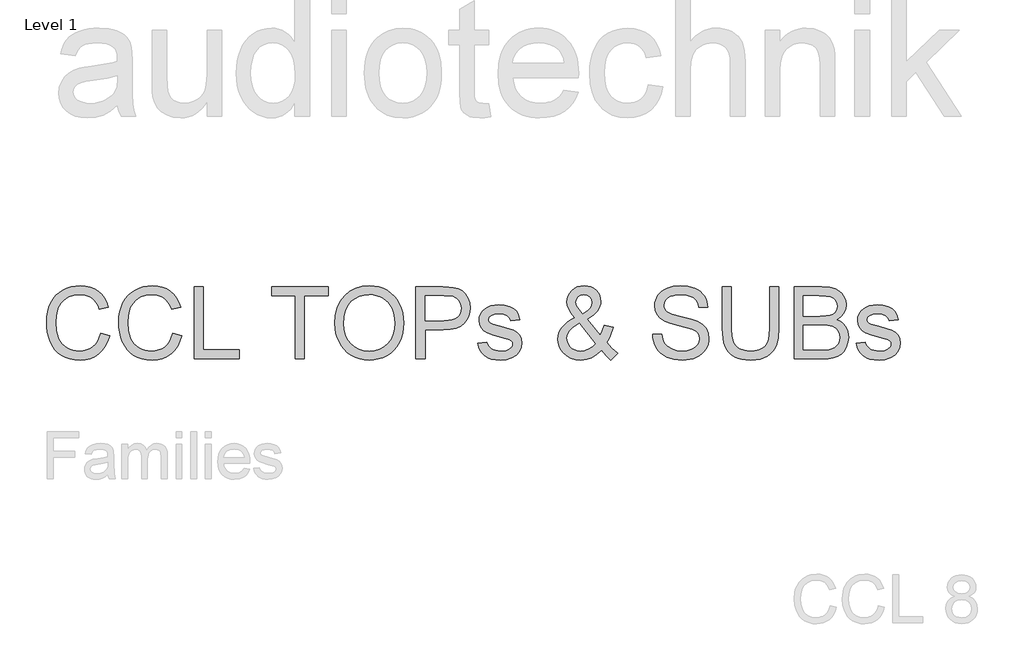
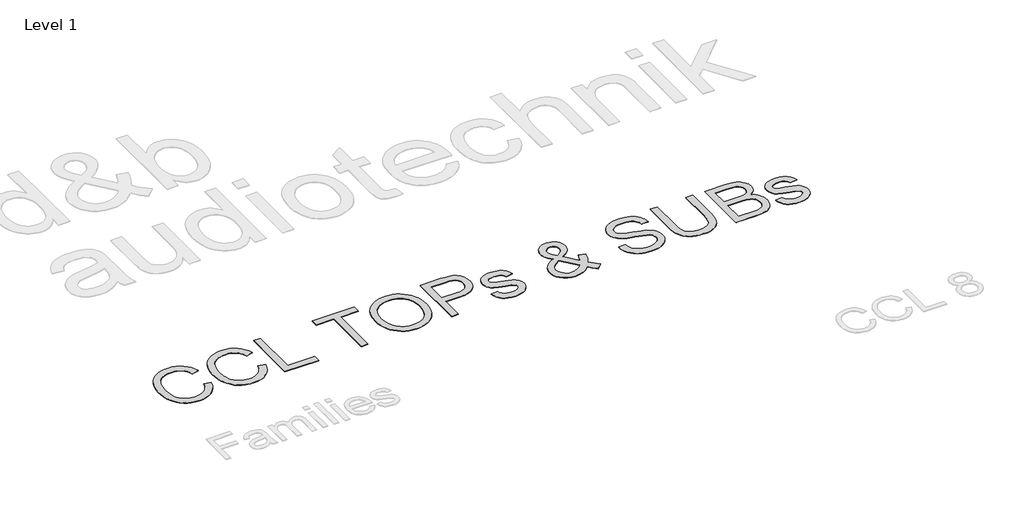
# One storey, part 23 of 31: 1 proxy.
"""IFC4 building model written with IfcOpenShell, lengths in millimetres."""

import ifcopenshell
import ifcopenshell.guid

model = None  # the IFC model being written
_history = None  # IfcOwnerHistory: only IFC2X3 demands one
_inside = {}  # id of a spatial element -> (the spatial element, [elements in it])
_under = {}  # id of a project, library or spatial element -> (it, [spatial elements below it])
_declared = {}  # id of a project -> (the project, [libraries it declares])
_typed = {}  # id of a type object -> (the type object, [elements of that type])
_made_of = {}  # id of a material, layer set ... -> (it, [elements and type objects made of it])


def new_model(schema):
    """Start an empty IFC model of exactly this schema.

    Asked for "IFC4X3", IfcOpenShell would pick the latest addendum, in which some entities
    have other attributes; the version numbers below select the first issue.
    IFC2X3 requires an IfcOwnerHistory on every rooted entity: one is made here for all.
    """
    global model, _history
    if schema == "IFC4X3":
        model = ifcopenshell.file(schema_version=(4, 3, 0, 0))
    else:
        model = ifcopenshell.file(schema=schema)
    _inside.clear()
    _under.clear()
    _declared.clear()
    _typed.clear()
    _made_of.clear()
    _history = None
    if model.schema == "IFC2X3":
        org = make("IfcOrganization", Name="unknown")
        user = make(
            "IfcPersonAndOrganization",
            ThePerson=make("IfcPerson", FamilyName="unknown"),
            TheOrganization=org,
        )
        app = make(
            "IfcApplication",
            ApplicationDeveloper=org,
            Version="unknown",
            ApplicationFullName="unknown",
            ApplicationIdentifier="unknown",
        )
        _history = make(
            "IfcOwnerHistory",
            OwningUser=user,
            OwningApplication=app,
            ChangeAction="ADDED",
            CreationDate=0,
        )
    return model


def make(cls, **values):
    """One entity of the class cls with the attributes given. An attribute that is None is left unset."""
    return model.create_entity(
        cls, **{name: value for name, value in values.items() if value is not None}
    )


def rooted(cls, **values):
    """An entity with a GlobalId (a new one), such as an element, a storey or a relation."""
    return make(cls, GlobalId=ifcopenshell.guid.new(), OwnerHistory=_history, **values)


def si_unit(unit_type, name, prefix=None):
    """IfcSIUnit, for example si_unit("LENGTHUNIT", "METRE", prefix="MILLI")."""
    return make("IfcSIUnit", UnitType=unit_type, Prefix=prefix, Name=name)


def assignment(units):
    """IfcUnitAssignment: the units of a project."""
    return None if units is None else make("IfcUnitAssignment", Units=units)


def point(xyz):
    """IfcCartesianPoint."""
    return None if xyz is None else make("IfcCartesianPoint", Coordinates=xyz)


def direction(xyz):
    """IfcDirection."""
    return None if xyz is None else make("IfcDirection", DirectionRatios=xyz)


def frame(location, z_axis=None, x_axis=None):
    """IfcAxis2Placement3D, a coordinate frame: its origin and axes. An axis left out is left unset."""
    return make(
        "IfcAxis2Placement3D",
        Location=point(location),
        Axis=direction(z_axis),
        RefDirection=direction(x_axis),
    )


def origin():
    """The frame at (0, 0, 0) with its axes left unset."""
    return frame((0.0, 0.0, 0.0))


def origin_with_axes():
    """The frame at (0, 0, 0) with the z axis (0, 0, 1) and the x axis (1, 0, 0) written out."""
    return frame((0.0, 0.0, 0.0), z_axis=(0.0, 0.0, 1.0), x_axis=(1.0, 0.0, 0.0))


def place(relative_to, where):
    """IfcLocalPlacement: puts the frame where relative to a parent placement (None: the world)."""
    return make(
        "IfcLocalPlacement", PlacementRelTo=relative_to, RelativePlacement=where
    )


def context(
    kind, dimensions, precision=None, world=None, true_north=None, identifier=None
):
    """IfcGeometricRepresentationContext, for example the 3D "Model" context."""
    return make(
        "IfcGeometricRepresentationContext",
        ContextIdentifier=identifier,
        ContextType=kind,
        CoordinateSpaceDimension=dimensions,
        Precision=precision,
        WorldCoordinateSystem=world,
        TrueNorth=true_north,
    )


def project(units=None, contexts=None):
    """IfcProject with its units and contexts."""
    return rooted(
        "IfcProject",
        Name="project",
        RepresentationContexts=contexts,
        UnitsInContext=assignment(units),
    )


def spatial(cls, under=None, at=None, **own):
    """A site, building, storey or space (cls), placed at a placement, below another one or the project."""
    s = rooted(cls, ObjectPlacement=at, **own)
    if under is not None:
        _under.setdefault(under.id(), (under, []))[1].append(s)
    return s


def polyline(points):
    """IfcPolyline through the points."""
    return make("IfcPolyline", Points=[point(p) for p in points])


def outline(outer, holes=None, kind="AREA"):
    """IfcArbitraryClosedProfileDef: a profile drawn as a closed curve; with holes, ...WithVoids."""
    if holes is None:
        return make("IfcArbitraryClosedProfileDef", ProfileType=kind, OuterCurve=outer)
    return make(
        "IfcArbitraryProfileDefWithVoids",
        ProfileType=kind,
        OuterCurve=outer,
        InnerCurves=holes,
    )


def extrude(swept, where, along, depth):
    """IfcExtrudedAreaSolid: the profile swept, set in the frame where, extruded along a direction by depth."""
    return make(
        "IfcExtrudedAreaSolid",
        SweptArea=swept,
        Position=where,
        ExtrudedDirection=direction(along),
        Depth=depth,
    )


def shape(context_of_items, identifier, shape_type, items):
    """IfcShapeRepresentation: the items that make up one representation, for example the "Body"."""
    return make(
        "IfcShapeRepresentation",
        ContextOfItems=context_of_items,
        RepresentationIdentifier=identifier,
        RepresentationType=shape_type,
        Items=items,
    )


def made_of(thing, what):
    """Note that an element or type object is made of a material, layer set ...; save() writes the relation."""
    if what is not None:
        _made_of.setdefault(what.id(), (what, []))[1].append(thing)
    return thing


def element(
    cls,
    number,
    at=None,
    inside=None,
    cuts=None,
    type_object=None,
    material=None,
    context=None,
    identifier="Body",
    shape_type=None,
    held_by="IfcProductDefinitionShape",
    body=None,
    shapes=None,
    **own,
):
    """One element of the class cls, such as IfcWall. Its Tag is "e" and its number.

    at: its placement. inside: the storey or other place that contains it. cuts: it is an
    opening in that element (IfcRelVoidsElement). A single representation is given by context,
    identifier, shape_type and body (its items); several are given by shapes. held_by: the class
    of the entity that holds the representations. save() writes the other relations.
    """
    e = rooted(cls, Tag="e%d" % number, ObjectPlacement=at, **own)
    if body is not None:
        shapes = [shape(context, identifier, shape_type, body)]
    if shapes is not None:
        e.Representation = make(held_by, Representations=shapes)
    if inside is not None:
        _inside.setdefault(inside.id(), (inside, []))[1].append(e)
    if cuts is not None:
        rooted(
            "IfcRelVoidsElement", RelatingBuildingElement=cuts, RelatedOpeningElement=e
        )
    if type_object is not None:
        _typed.setdefault(type_object.id(), (type_object, []))[1].append(e)
    return made_of(e, material)


def aggregate(whole, parts):
    """IfcRelAggregates: a whole, such as a stair, and the parts it consists of."""
    return rooted("IfcRelAggregates", RelatingObject=whole, RelatedObjects=parts)


def save(model, path):
    """Write the relations noted so far, then the file.

    IfcRelAggregates (storeys below a building ...), IfcRelContainedInSpatialStructure (elements
    in a storey), IfcRelDefinesByType, IfcRelAssociatesMaterial and IfcRelDeclares: one each for
    every whole, place, type object, material and project.
    """
    for whole, parts in _under.values():
        aggregate(whole, parts)
    for where, things in _inside.values():
        rooted(
            "IfcRelContainedInSpatialStructure",
            RelatedElements=things,
            RelatingStructure=where,
        )
    for kind, things in _typed.values():
        rooted("IfcRelDefinesByType", RelatedObjects=things, RelatingType=kind)
    for what, things in _made_of.values():
        rooted("IfcRelAssociatesMaterial", RelatedObjects=things, RelatingMaterial=what)
    for by, libraries in _declared.values():
        rooted("IfcRelDeclares", RelatingContext=by, RelatedDefinitions=libraries)
    model.write(path)


model = new_model("IFC4")

# Units and contexts
model_context = context("Model", 3, world=origin())
ifc_project = project(units=[si_unit("LENGTHUNIT", "METRE", prefix="MILLI")], contexts=[model_context])

# Site, building, storey
site = spatial("IfcSite", under=ifc_project)
building = spatial("IfcBuilding", under=site)
storey = spatial("IfcBuildingStorey", under=building, Name="Level 1", Elevation=0.0)

# Proxy
placement = place(None, origin())
element("IfcBuildingElementProxy", 1, Name="600mm Arial", ObjectType="600mm Arial", at=placement, inside=storey, context=model_context, shape_type="SweptSolid", body=[
    extrude(outline(polyline([(-20609.8448639, 18565.5599576), (-20534.5026313, 18546.1357882), (-20549.4110491, 18499.2814176), (-20569.2674798, 18458.3407501), (-20594.0719234, 18423.3137856), (-20623.8243797, 18394.2005242), (-20657.8534643, 18371.3136656), (-20695.4877924, 18354.9659094), (-20736.727364, 18345.1572557), (-20781.5721793, 18341.8877045), (-20827.5160419, 18344.3617109), (-20868.9625472, 18351.7837302), (-20905.9116951, 18364.1537623), (-20938.3634856, 18381.4718072), (-20966.7639756, 18403.4803475), (-20991.5592221, 18429.9218659), (-21012.749225, 18460.7963624), (-21030.3339844, 18496.1038369), (-21044.1433548, 18534.3175791), (-21054.0071908, 18573.9108789), (-21059.9254924, 18614.8837361), (-21061.8982596, 18657.2361508), (-21059.667975, 18702.6787742), (-21052.9771212, 18745.1231594), (-21041.8256982, 18784.5693063), (-21026.213706, 18821.017215), (-21006.4906326, 18853.8644787), (-20983.0059657, 18882.5086905), (-20955.7597054, 18906.9498506), (-20924.7518518, 18927.1879588), (-20891.0354669, 18943.0574684), (-20855.6636131, 18954.3928324), (-20818.6362903, 18961.1940508), (-20779.9534985, 18963.4611235), (-20736.8607213, 18960.5272646), (-20697.3455965, 18951.7256879), (-20661.4081241, 18937.0563933), (-20629.0483041, 18916.519381), (-20600.7995653, 18890.6572767), (-20577.1953368, 18860.0127065), (-20558.2356185, 18824.5856704), (-20543.9204104, 18784.3761683), (-20619.262643, 18766.4235269), (-20631.1268373, 18796.0518231), (-20645.3822646, 18821.3667029), (-20662.0289249, 18842.3681663), (-20681.0668182, 18859.0562133), (-20702.606309, 18871.7711348), (-20726.757762, 18880.8532215), (-20753.5211771, 18886.3024736), (-20782.8965544, 18888.1188909), (-20816.6957127, 18886.104737), (-20847.6069974, 18880.0622752), (-20875.6304084, 18869.9915056), (-20900.7659457, 18855.8924282), (-20922.6963111, 18838.3996393), (-20941.1042065, 18818.1477355), (-20955.9896317, 18795.1367167), (-20967.3525868, 18769.3665829), (-20981.7551669, 18714.2210718), (-20986.556027, 18657.3833036), (-20980.8722501, 18587.7800301), (-20973.7675291, 18556.5100605), (-20963.8209197, 18527.5945357), (-20950.8714734, 18501.6082712), (-20934.758242, 18479.1260828), (-20915.4812255, 18460.1479704), (-20893.0404238, 18444.6739339), (-20868.5256873, 18432.6671853), (-20843.0268665, 18424.0909363), (-20816.5439614, 18418.9451869), (-20789.076972, 18417.2299371), (-20756.3216788, 18419.5659878), (-20726.1875449, 18426.5741398), (-20698.6745702, 18438.2543931), (-20673.7827547, 18454.6067478), (-20652.1007096, 18475.5576274), (-20634.2170461, 18501.0334556), (-20620.1317642, 18531.0342323), (-20609.8448639, 18565.5599576)])), origin_with_axes(), (0.0, 0.0, 1.0), 5.0),
    extrude(outline(polyline([(-20007.107003, 18565.5599576), (-19931.7647704, 18546.1357882), (-19946.6731882, 18499.2814176), (-19966.5296189, 18458.3407501), (-19991.3340625, 18423.3137856), (-20021.0865188, 18394.2005242), (-20055.1156034, 18371.3136656), (-20092.7499315, 18354.9659094), (-20133.9895031, 18345.1572557), (-20178.8343184, 18341.8877045), (-20224.778181, 18344.3617109), (-20266.2246863, 18351.7837302), (-20303.1738342, 18364.1537623), (-20335.6256247, 18381.4718072), (-20364.0261147, 18403.4803475), (-20388.8213612, 18429.9218659), (-20410.0113641, 18460.7963624), (-20427.5961235, 18496.1038369), (-20441.4054939, 18534.3175791), (-20451.2693299, 18573.9108789), (-20457.1876315, 18614.8837361), (-20459.1603987, 18657.2361508), (-20456.9301141, 18702.6787742), (-20450.2392603, 18745.1231594), (-20439.0878373, 18784.5693063), (-20423.4758451, 18821.017215), (-20403.7527717, 18853.8644787), (-20380.2681048, 18882.5086905), (-20353.0218445, 18906.9498506), (-20322.0139909, 18927.1879588), (-20288.297606, 18943.0574684), (-20252.9257522, 18954.3928324), (-20215.8984294, 18961.1940508), (-20177.2156376, 18963.4611235), (-20134.1228604, 18960.5272646), (-20094.6077356, 18951.7256879), (-20058.6702632, 18937.0563933), (-20026.3104432, 18916.519381), (-19998.0617044, 18890.6572767), (-19974.4574759, 18860.0127065), (-19955.4977576, 18824.5856704), (-19941.1825495, 18784.3761683), (-20016.5247821, 18766.4235269), (-20028.3889764, 18796.0518231), (-20042.6444037, 18821.3667029), (-20059.291064, 18842.3681663), (-20078.3289573, 18859.0562133), (-20099.8684481, 18871.7711348), (-20124.0199011, 18880.8532215), (-20150.7833162, 18886.3024736), (-20180.1586935, 18888.1188909), (-20213.9578518, 18886.104737), (-20244.8691365, 18880.0622752), (-20272.8925475, 18869.9915056), (-20298.0280848, 18855.8924282), (-20319.9584502, 18838.3996393), (-20338.3663456, 18818.1477355), (-20353.2517708, 18795.1367167), (-20364.6147259, 18769.3665829), (-20379.017306, 18714.2210718), (-20383.8181661, 18657.3833036), (-20378.1343892, 18587.7800301), (-20371.0296682, 18556.5100605), (-20361.0830588, 18527.5945357), (-20348.1336125, 18501.6082712), (-20332.0203811, 18479.1260828), (-20312.7433646, 18460.1479704), (-20290.3025629, 18444.6739339), (-20265.7878264, 18432.6671853), (-20240.2890056, 18424.0909363), (-20213.8061005, 18418.9451869), (-20186.3391111, 18417.2299371), (-20153.5838179, 18419.5659878), (-20123.449684, 18426.5741398), (-20095.9367093, 18438.2543931), (-20071.0448938, 18454.6067478), (-20049.3628487, 18475.5576274), (-20031.4791852, 18501.0334556), (-20017.3939033, 18531.0342323), (-20007.107003, 18565.5599576)])), origin_with_axes(), (0.0, 0.0, 1.0), 5.0),
    extrude(outline(polyline([(-19828.1692006, 18351.3054836), (-19828.1692006, 18954.0433445), (-19752.8269679, 18954.0433445), (-19752.8269679, 18426.6477162), (-19451.4580375, 18426.6477162), (-19451.4580375, 18351.3054836), (-19828.1692006, 18351.3054836)])), origin_with_axes(), (0.0, 0.0, 1.0), 5.0),
    extrude(outline(polyline([(-18980.5690837, 18351.3054836), (-18980.5690837, 18878.7011119), (-19178.3424443, 18878.7011119), (-19178.3424443, 18954.0433445), (-18707.4534904, 18954.0433445), (-18707.4534904, 18878.7011119), (-18905.2268511, 18878.7011119), (-18905.2268511, 18351.3054836), (-18980.5690837, 18351.3054836)])), origin_with_axes(), (0.0, 0.0, 1.0), 5.0),
    extrude(outline(polyline([(-18650.946816, 18644.7281629), (-18645.9252268, 18715.4258853), (-18630.860459, 18778.0118098), (-18605.7525129, 18832.4859362), (-18589.4323479, 18856.6810752), (-18570.6013882, 18878.8482647), (-18527.5132096, 18915.8663904), (-18478.5941012, 18942.3079088), (-18423.8440633, 18958.1728199), (-18363.2630958, 18963.4611235), (-18322.7133028, 18960.9779201), (-18284.205255, 18953.5283097), (-18247.7389522, 18941.1122923), (-18213.3143945, 18923.7298681), (-18181.8972721, 18901.9052687), (-18154.4532753, 18876.1627261), (-18130.982404, 18846.5022402), (-18111.4846583, 18812.9238111), (-18096.1623732, 18776.1907939), (-18085.2178838, 18737.0665437), (-18078.6511902, 18695.5510606), (-18076.4622923, 18651.6443444), (-18078.7661533, 18607.1582142), (-18085.6777363, 18565.081711), (-18097.1970413, 18525.4148348), (-18113.3240682, 18488.1575858), (-18133.6771396, 18454.2940481), (-18157.8745778, 18424.8083062), (-18185.9163829, 18399.70036), (-18217.8025549, 18378.9702096), (-18252.2776963, 18362.7466136), (-18288.08641, 18351.1583308), (-18325.228696, 18344.2053611), (-18363.7045542, 18341.8877045), (-18404.9625199, 18344.4490829), (-18443.9764055, 18352.1332181), (-18480.7462109, 18364.94011), (-18515.2719362, 18382.8697588), (-18546.6522704, 18405.227787), (-18573.9859026, 18431.3198175), (-18597.2728329, 18461.1458503), (-18616.5130612, 18494.7058853), (-18631.5778289, 18530.6525547), (-18642.3383773, 18567.6384908), (-18648.7947063, 18605.6636936), (-18650.946816, 18644.7281629)]), holes=[polyline([(-18575.6045834, 18643.9923989), (-18571.8383914, 18594.043221), (-18560.5398157, 18549.7042436), (-18541.708856, 18510.9754665), (-18515.3455126, 18477.8568899), (-18483.2983923, 18451.3325981), (-18447.4161022, 18432.3866753), (-18407.6986422, 18421.0191217), (-18364.1460125, 18417.2299371), (-18319.8484218, 18421.0559099), (-18279.6619124, 18432.5338281), (-18243.5864842, 18451.6636919), (-18211.6221373, 18478.4455011), (-18185.4519319, 18512.2630535), (-18166.758928, 18552.5001467), (-18155.5431257, 18599.1567808), (-18151.8045249, 18652.2329556), (-18153.4048116, 18686.7126956), (-18158.2056716, 18718.9299614), (-18166.207105, 18748.8847528), (-18177.4091118, 18776.57707), (-18191.6875317, 18801.6436294), (-18208.9182047, 18823.7211477), (-18229.1011306, 18842.8096247), (-18252.2363096, 18858.9090605), (-18277.6063717, 18871.6883613), (-18304.493947, 18880.8164333), (-18332.8990356, 18886.2932765), (-18362.8216374, 18888.1188909), (-18404.8613524, 18884.6010194), (-18443.8660409, 18874.0474046), (-18479.835703, 18856.4580467), (-18512.7703386, 18831.8329457), (-18540.2603207, 18798.985682), (-18559.8960222, 18756.7298364), (-18571.6774431, 18705.0654087), (-18575.6045834, 18643.9923989)])]), origin_with_axes(), (0.0, 0.0, 1.0), 5.0),
    extrude(outline(polyline([(-17972.8667225, 18351.3054836), (-17972.8667225, 18954.0433445), (-17749.488775, 18954.0433445), (-17697.4702609, 18952.6086047), (-17659.4312626, 18948.3043853), (-17619.2769428, 18937.5806252), (-17586.2227455, 18920.1246245), (-17559.6064832, 18895.145437), (-17538.7659682, 18861.8521165), (-17525.3014871, 18822.5807135), (-17520.8133268, 18779.6672788), (-17523.8437547, 18742.6675471), (-17532.9350385, 18708.6292655), (-17548.0871782, 18677.5524339), (-17569.3001738, 18649.4370525), (-17598.4226322, 18626.1317281), (-17637.3031606, 18609.4850678), (-17685.9417589, 18599.4970716), (-17744.3384271, 18596.1677396), (-17897.5244899, 18596.1677396), (-17897.5244899, 18351.3054836), (-17972.8667225, 18351.3054836)]), holes=[polyline([(-17897.5244899, 18671.5099722), (-17739.9238431, 18671.5099722), (-17703.6874666, 18673.2390176), (-17673.1164728, 18678.4261537), (-17648.2108617, 18687.0713806), (-17628.9706334, 18699.1746982), (-17614.6140385, 18714.4142099), (-17604.3593279, 18732.4680188), (-17598.2065015, 18753.336125), (-17596.1555594, 18777.0185284), (-17600.9932077, 18810.8636719), (-17615.5061524, 18839.4113148), (-17637.8917718, 18860.8956233), (-17666.3474441, 18873.5507639), (-17695.4101217, 18877.4135249), (-17741.6896767, 18878.7011119), (-17897.5244899, 18878.7011119), (-17897.5244899, 18671.5099722)])]), origin_with_axes(), (0.0, 0.0, 1.0), 5.0),
    extrude(outline(polyline([(-17454.8888733, 18483.1543906), (-17379.5466407, 18492.5721697), (-17374.994101, 18475.3920805), (-17367.6640522, 18460.3457069), (-17357.5564944, 18447.4330489), (-17344.6714275, 18436.6541065), (-17328.9720634, 18428.1560324), (-17310.4216138, 18422.0859794), (-17264.7674582, 18417.2299371), (-17219.6651255, 18421.6813092), (-17202.1355485, 18427.2455244), (-17187.9536976, 18435.0354257), (-17169.1917158, 18454.3860186), (-17164.5012204, 18465.2201434), (-17162.9377219, 18476.8268203), (-17164.5104174, 18486.9987575), (-17169.228504, 18496.0302605), (-17188.1008504, 18510.6719639), (-17216.3173994, 18520.2368958), (-17265.6503749, 18532.1562724), (-17334.4075198, 18552.0402942), (-17379.1051823, 18569.0180483), (-17407.818372, 18587.5409068), (-17428.6220988, 18612.0602418), (-17441.2588453, 18641.0125548), (-17445.4710942, 18672.8343474), (-17442.0865798, 18702.0257837), (-17431.9330368, 18728.9731398), (-17415.93017, 18752.609558), (-17394.9976845, 18771.8681805), (-17374.1939576, 18783.9898922), (-17347.0994487, 18794.1618294), (-17315.7742968, 18801.0596168), (-17282.2786411, 18803.3588792), (-17233.2399712, 18799.6616652), (-17190.6024479, 18788.570023), (-17156.315846, 18771.1692047), (-17132.3299399, 18748.544462), (-17116.4374377, 18719.0219319), (-17106.4310474, 18680.9277513), (-17181.77328, 18671.5099722), (-17191.2830296, 18695.2199668), (-17210.1001937, 18713.0806376), (-17238.4087132, 18724.2826444), (-17276.3925292, 18728.0166466), (-17319.6554518, 18724.4481913), (-17348.4974003, 18713.7428252), (-17364.7209962, 18698.2917814), (-17370.1288616, 18680.4862929), (-17367.8847814, 18668.89801), (-17361.1525409, 18658.5605259), (-17349.6378344, 18649.3266879), (-17333.0463565, 18641.9322598), (-17268.1519725, 18625.8926048), (-17157.5666448, 18590.4287804), (-17128.3568143, 18573.4694205), (-17106.2103182, 18550.2560666), (-17092.2491965, 18520.7151424), (-17087.5954893, 18484.7730714), (-17093.0585369, 18447.6169899), (-17109.4476798, 18412.6682004), (-17136.1375185, 18382.6674237), (-17172.5026538, 18360.3553807), (-17216.427764, 18346.5046235), (-17265.7975277, 18341.8877045), (-17306.3473207, 18344.1133906), (-17341.7651597, 18350.7904488), (-17372.051045, 18361.9188791), (-17397.2049764, 18377.4986816), (-17417.7511859, 18397.4562799), (-17434.2139051, 18421.7180974), (-17446.5931343, 18450.2841344), (-17454.8888733, 18483.1543906)])), origin_with_axes(), (0.0, 0.0, 1.0), 5.0),
    extrude(outline(polyline([(-16421.729078, 18425.7647994), (-16460.0255937, 18389.0685704), (-16501.6330474, 18362.8569782), (-16546.6250154, 18347.1300229), (-16595.0750741, 18341.8877045), (-16639.0369726, 18345.7688595), (-16678.216405, 18357.4123247), (-16712.6133716, 18376.8180999), (-16742.2278722, 18403.9861853), (-16761.4772976, 18430.0414276), (-16775.2268872, 18457.586592), (-16783.4766409, 18486.6216784), (-16786.2265588, 18517.146687), (-16784.0146683, 18544.2136048), (-16777.3789968, 18569.9377533), (-16766.3195444, 18594.3191325), (-16750.8363109, 18617.3577425), (-16730.9568876, 18639.0443861), (-16706.7088656, 18659.3698663), (-16678.0922449, 18678.3341832), (-16645.1070255, 18695.9373367), (-16677.9772818, 18738.4644953), (-16697.7141508, 18772.1624861), (-16707.5917824, 18800.9308581), (-16710.8843262, 18828.6691605), (-16708.2907582, 18855.0003143), (-16700.510054, 18879.5472404), (-16687.5422136, 18902.3099389), (-16669.3872372, 18923.2884097), (-16647.3051204, 18940.863972), (-16622.5558592, 18953.4179451), (-16595.1394535, 18960.9503289), (-16565.0559033, 18963.4611235), (-16536.3335166, 18961.0606935), (-16510.3518506, 18953.8594035), (-16487.1109056, 18941.8572534), (-16466.6106814, 18925.0542433), (-16449.8720506, 18904.8851129), (-16437.9158858, 18882.784602), (-16430.7421869, 18858.7527107), (-16428.3509539, 18832.7894389), (-16430.121386, 18811.4062979), (-16435.4326823, 18790.8141032), (-16444.2848428, 18771.0128548), (-16456.6778676, 18752.0025527), (-16492.0865096, 18716.3547874), (-16541.6586084, 18683.8708072), (-16432.6183851, 18548.0487746), (-16414.0403443, 18586.8603251), (-16400.0976167, 18631.4844111), (-16324.7553841, 18615.1504505), (-16347.9319498, 18545.363236), (-16362.1138007, 18516.2913614), (-16378.024697, 18491.1006417), (-16335.2032327, 18441.1422668), (-16287.0842678, 18399.8659069), (-16343.5909422, 18341.8877045), (-16382.0346107, 18377.0572232), (-16421.729078, 18425.7647994)]), holes=[polyline([(-16579.7711831, 18731.401161), (-16540.3710215, 18756.3987426), (-16517.8198552, 18778.1221744), (-16507.2248537, 18799.256995), (-16503.6931865, 18822.488743), (-16508.3468938, 18848.8106997), (-16522.3080155, 18869.7983676), (-16543.2588951, 18883.5387601), (-16568.8818761, 18888.1188909), (-16595.05668, 18883.5755483), (-16616.4858063, 18869.9455204), (-16630.7780218, 18849.7671929), (-16635.5420936, 18825.5789518), (-16629.0673705, 18797.9878021), (-16609.4960483, 18767.3064437), (-16579.7711831, 18731.401161)]), polyline([(-16472.2024877, 18480.0641819), (-16606.7001452, 18647.9655245), (-16658.0748658, 18615.1872387), (-16689.4735941, 18584.8369741), (-16705.5316432, 18555.8478729), (-16710.8843262, 18527.1530773), (-16709.0541133, 18509.5499238), (-16703.5634745, 18491.6156765), (-16681.6009194, 18454.7539006), (-16665.4325057, 18438.3371666), (-16646.2106715, 18426.610928), (-16623.9354167, 18419.5751848), (-16598.6067413, 18417.2299371), (-16564.5224744, 18421.6077329), (-16529.3713498, 18434.7411201), (-16497.2368575, 18454.827477), (-16472.2024877, 18480.0641819)])]), origin_with_axes(), (0.0, 0.0, 1.0), 5.0),
    extrude(outline(polyline([(-15995.1331164, 18558.4966233), (-15919.7908838, 18558.4966233), (-15911.1456569, 18516.6868345), (-15895.5106721, 18483.0808142), (-15871.1200958, 18456.4093696), (-15836.2080945, 18435.4033077), (-15793.533783, 18421.7732797), (-15745.8562765, 18417.2299371), (-15703.8809408, 18420.6696338), (-15667.1295295, 18430.9887237), (-15637.349482, 18447.3226843), (-15616.2882378, 18468.8069928), (-15603.7618558, 18493.4734806), (-15599.5863952, 18519.353979), (-15602.7133921, 18544.5722897), (-15612.094383, 18566.369298), (-15631.1506704, 18584.9657328), (-15663.3035568, 18600.5823235), (-15773.0059677, 18629.3506955), (-15845.0188683, 18648.3885888), (-15891.0960882, 18666.506777), (-15928.6016576, 18691.8538465), (-15955.1811317, 18722.5719931), (-15971.0184516, 18757.9990292), (-15976.2975583, 18797.4727673), (-15974.6650819, 18819.9089705), (-15969.7676528, 18841.6002126), (-15961.6052711, 18862.5464937), (-15950.1779366, 18882.7478138), (-15935.6144081, 18901.3810369), (-15918.0434443, 18917.6230269), (-15897.4650452, 18931.4737841), (-15873.8792108, 18942.9333082), (-15820.8674153, 18958.3291697), (-15762.1902371, 18963.4611235), (-15698.6202283, 18958.0900464), (-15642.9964706, 18941.976815), (-15618.6610766, 18929.9746649), (-15597.3055268, 18915.4525232), (-15578.9298212, 18898.4103897), (-15563.5339597, 18878.8482647), (-15551.237504, 18857.336365), (-15542.1600157, 18834.4449078), (-15536.301495, 18810.1738932), (-15533.6619417, 18784.5233211), (-15609.0041743, 18784.5233211), (-15614.0441576, 18808.5644095), (-15622.8365373, 18829.4785009), (-15635.3813133, 18847.2655954), (-15651.6784857, 18861.9256929), (-15672.0315571, 18873.385217), (-15696.7440301, 18881.5705914), (-15725.8159048, 18886.4818161), (-15759.2471811, 18888.1188909), (-15793.7453152, 18886.5002102), (-15823.2218601, 18881.6441678), (-15847.6768157, 18873.5507639), (-15867.1101821, 18862.2199985), (-15881.9174324, 18848.5991676), (-15892.4940397, 18833.6355674), (-15898.8400042, 18817.329198), (-15900.9553256, 18799.6800593), (-15899.4562065, 18784.4957299), (-15894.9588491, 18770.7277463), (-15887.4632535, 18758.3761083), (-15876.9694196, 18747.440816), (-15860.451518, 18737.0849378), (-15834.4422609, 18726.6186951), (-15753.9496804, 18705.3551157), (-15670.8819259, 18685.1583942), (-15620.6292453, 18667.5368466), (-15577.6790224, 18640.2032144), (-15561.0737488, 18624.1359682), (-15547.7150339, 18606.4684354), (-15537.4465277, 18587.2925864), (-15530.1118804, 18566.7003917), (-15524.2441626, 18521.2669653), (-15525.9318212, 18497.699525), (-15530.9947972, 18474.8218635), (-15539.4330905, 18452.6339806), (-15551.246701, 18431.1358765), (-15566.2286953, 18411.1598842), (-15584.1721396, 18393.5383366), (-15605.077034, 18378.2712338), (-15628.9433784, 18365.3585758), (-15655.0767956, 18355.0900696), (-15682.7829084, 18347.7554223), (-15742.9132205, 18341.8877045), (-15781.453458, 18343.4695971), (-15816.7287428, 18348.2152748), (-15848.7390749, 18356.1247377), (-15877.4844543, 18367.1979858), (-15903.139625, 18381.4534131), (-15925.8793308, 18398.9094137), (-15945.7035718, 18419.5659878), (-15962.612348, 18443.4231352), (-15976.2331789, 18469.7083037), (-15986.1935839, 18497.6489413), (-15992.4935631, 18527.2450478), (-15995.1331164, 18558.4966233)])), origin_with_axes(), (0.0, 0.0, 1.0), 5.0),
    extrude(outline(polyline([(-15015.6840924, 18954.0433445), (-14940.3418598, 18954.0433445), (-14940.3418598, 18606.3212826), (-14945.4554196, 18524.890603), (-14951.8473692, 18491.1972108), (-14960.7960988, 18462.1851169), (-14973.0741604, 18436.755274), (-14989.4541062, 18413.8086346), (-15009.9359363, 18393.3451986), (-15034.5196506, 18375.3649661), (-15063.2328403, 18360.7186641), (-15096.1030966, 18350.2570199), (-15133.1304194, 18343.9800333), (-15174.3148088, 18341.8877045), (-15214.4829241, 18343.7087204), (-15250.8158697, 18349.171768), (-15283.3136454, 18358.2768474), (-15311.9762514, 18371.0239585), (-15336.808286, 18387.2245619), (-15357.814348, 18406.6901179), (-15374.9944371, 18429.4206267), (-15388.3485536, 18455.4160882), (-15398.3595424, 18485.5686162), (-15405.5102486, 18520.7703247), (-15409.8006724, 18561.0212134), (-15411.2308137, 18606.3212826), (-15411.2308137, 18954.0433445), (-15335.888581, 18954.0433445), (-15335.888581, 18608.970033), (-15332.1729729, 18541.2613518), (-15321.0261484, 18494.1172741), (-15312.2613599, 18476.7394484), (-15300.8294269, 18461.467747), (-15286.7303494, 18448.3021701), (-15269.9641275, 18437.2427176), (-15229.7178372, 18422.2331322), (-15181.3781431, 18417.2299371), (-15139.8534629, 18419.7039435), (-15104.7483235, 18427.1259628), (-15076.0627249, 18439.4959949), (-15053.7966671, 18456.8140398), (-15037.1224157, 18481.1678279), (-15025.2122361, 18514.6450894), (-15018.0661284, 18557.2458245), (-15015.6840924, 18608.970033), (-15015.6840924, 18954.0433445)])), origin_with_axes(), (0.0, 0.0, 1.0), 5.0),
    extrude(outline(polyline([(-14808.4929528, 18351.3054836), (-14808.4929528, 18954.0433445), (-14578.4931294, 18954.0433445), (-14515.2358203, 18949.6103664), (-14465.8476625, 18936.3114323), (-14445.7705026, 18926.2544583), (-14427.9926052, 18913.8154483), (-14412.5139702, 18898.9944024), (-14399.3345977, 18881.7913206), (-14381.2899859, 18844.1202043), (-14375.2751152, 18804.6832544), (-14380.3334927, 18768.3916956), (-14395.508625, 18734.2706406), (-14420.9108767, 18704.4170166), (-14456.6506126, 18680.9277513), (-14433.9109067, 18671.2340607), (-14413.957907, 18658.6341023), (-14396.7916134, 18643.1278762), (-14382.4120259, 18624.7153824), (-14371.0490708, 18603.9576408), (-14362.9326743, 18581.4156716), (-14358.0628364, 18557.0894746), (-14356.4395571, 18530.97905), (-14360.8725351, 18488.9485321), (-14374.1714693, 18449.9714347), (-14394.0187029, 18416.8252669), (-14418.0965795, 18392.2875378), (-14447.5823214, 18374.5188375), (-14483.653151, 18361.6797558), (-14527.4862907, 18353.8990516), (-14580.258963, 18351.3054836), (-14808.4929528, 18351.3054836)]), holes=[polyline([(-14733.1507201, 18709.1810885), (-14595.562854, 18709.1810885), (-14547.443889, 18710.7997693), (-14515.2174262, 18715.6558116), (-14487.0928477, 18726.8210301), (-14466.877732, 18743.5412668), (-14454.6824439, 18765.5590042), (-14450.6173479, 18792.616725), (-14454.4065324, 18818.8834994), (-14465.7740861, 18841.7657595), (-14484.204974, 18859.6264304), (-14509.1841615, 18870.8284372), (-14547.5174654, 18876.7329432), (-14606.0107026, 18878.7011119), (-14733.1507201, 18878.7011119), (-14733.1507201, 18709.1810885)]), polyline([(-14733.1507201, 18426.6477162), (-14578.6402822, 18426.6477162), (-14522.7222189, 18429.5907721), (-14496.7681441, 18436.1206776), (-14475.4125943, 18445.9983091), (-14458.0485642, 18460.1433718), (-14444.0690483, 18479.4755707), (-14434.8536044, 18503.130383), (-14431.7817897, 18530.243286), (-14435.3870333, 18561.7339848), (-14446.2027639, 18588.8100997), (-14465.0935044, 18609.9817085), (-14492.9237773, 18623.7588892), (-14532.3423331, 18631.3188642), (-14585.9979221, 18633.8388559), (-14733.1507201, 18633.8388559), (-14733.1507201, 18426.6477162)])]), origin_with_axes(), (0.0, 0.0, 1.0), 5.0),
    extrude(outline(polyline([(-14290.5151036, 18483.1543906), (-14215.1728709, 18492.5721697), (-14210.6203313, 18475.3920805), (-14203.2902825, 18460.3457069), (-14193.1827247, 18447.4330489), (-14180.2976578, 18436.6541065), (-14164.5982937, 18428.1560324), (-14146.047844, 18422.0859794), (-14100.3936884, 18417.2299371), (-14055.2913558, 18421.6813092), (-14037.7617788, 18427.2455244), (-14023.5799279, 18435.0354257), (-14004.8179461, 18454.3860186), (-14000.1274507, 18465.2201434), (-13998.5639522, 18476.8268203), (-14000.1366477, 18486.9987575), (-14004.8547343, 18496.0302605), (-14023.7270807, 18510.6719639), (-14051.9436297, 18520.2368958), (-14101.2766052, 18532.1562724), (-14170.0337501, 18552.0402942), (-14214.7314125, 18569.0180483), (-14243.4446023, 18587.5409068), (-14264.2483291, 18612.0602418), (-14276.8850756, 18641.0125548), (-14281.0973245, 18672.8343474), (-14277.7128101, 18702.0257837), (-14267.5592671, 18728.9731398), (-14251.5564003, 18752.609558), (-14230.6239147, 18771.8681805), (-14209.8201879, 18783.9898922), (-14182.725679, 18794.1618294), (-14151.4005271, 18801.0596168), (-14117.9048714, 18803.3588792), (-14068.8662015, 18799.6616652), (-14026.2286782, 18788.570023), (-13991.9420763, 18771.1692047), (-13967.9561702, 18748.544462), (-13952.063668, 18719.0219319), (-13942.0572777, 18680.9277513), (-14017.3995103, 18671.5099722), (-14026.9092599, 18695.2199668), (-14045.726424, 18713.0806376), (-14074.0349435, 18724.2826444), (-14112.0187595, 18728.0166466), (-14155.2816821, 18724.4481913), (-14184.1236305, 18713.7428252), (-14200.3472265, 18698.2917814), (-14205.7550919, 18680.4862929), (-14203.5110117, 18668.89801), (-14196.7787712, 18658.5605259), (-14185.2640647, 18649.3266879), (-14168.6725868, 18641.9322598), (-14103.7782028, 18625.8926048), (-13993.1928751, 18590.4287804), (-13963.9830446, 18573.4694205), (-13941.8365485, 18550.2560666), (-13927.8754268, 18520.7151424), (-13923.2217196, 18484.7730714), (-13928.6847672, 18447.6169899), (-13945.0739101, 18412.6682004), (-13971.7637488, 18382.6674237), (-14008.1288841, 18360.3553807), (-14052.0539943, 18346.5046235), (-14101.423758, 18341.8877045), (-14141.973551, 18344.1133906), (-14177.39139, 18350.7904488), (-14207.6772753, 18361.9188791), (-14232.8312067, 18377.4986816), (-14253.3774161, 18397.4562799), (-14269.8401354, 18421.7180974), (-14282.2193646, 18450.2841344), (-14290.5151036, 18483.1543906)])), origin_with_axes(), (0.0, 0.0, 1.0), 5.0),
])

save(model, "model.ifc")
